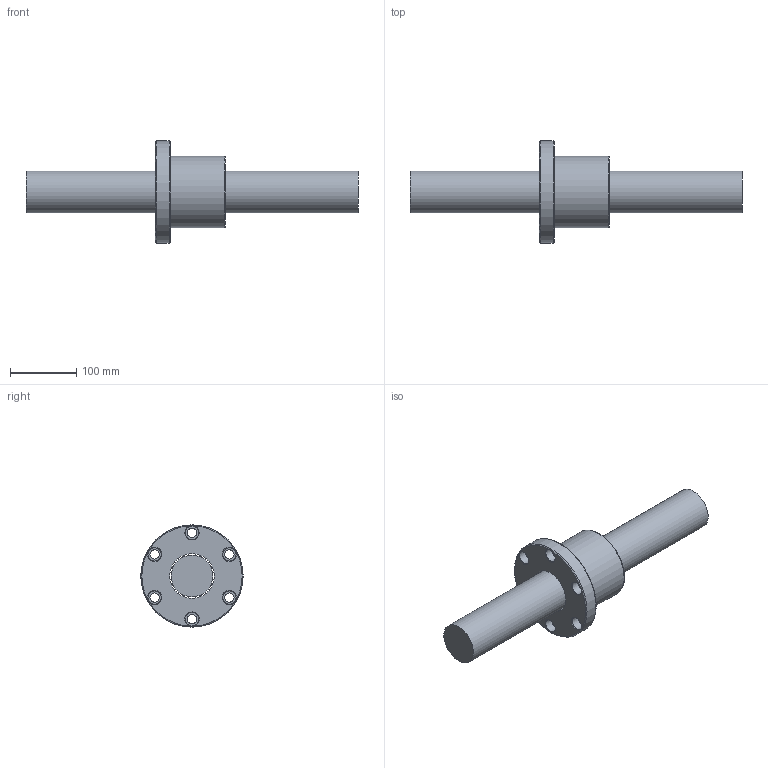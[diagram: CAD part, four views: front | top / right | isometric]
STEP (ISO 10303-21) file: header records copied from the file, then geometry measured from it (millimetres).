
FILE_DESCRIPTION (( 'STEP AP203' ), '1' );
FILE_NAME ('SFV06310N-4.8.step', '2024-05-20T03:40:20', ( '' ), ( '' ), 'SwSTEP 2.0', 'SolidWorks 2022', '' );
FILE_SCHEMA (( 'CONFIG_CONTROL_DESIGN' ));
Length unit declared in the file: millimetre
Products named in the file (1): SFV06310N-4.8
Bounding box: 500 x 154 x 154 mm (x, y, z)
Volume: 2323615.4 mm3; surface area: 201313.2 mm2
Topology: 2 solids, 2 shells, 57 faces, 146 edges, 94 vertices
Faces by surface type: cylinder 24, cone 13, plane 12, bspline 5, torus 3
Full cylindrical faces by diameter (mm): 4 x1, 7 x5, 14 x6, 20 x6, 63 x1, 67.1 x1, 108 x1, 154 x1
Entity records: 3426 total; most frequent: CARTESIAN_POINT 2374, DIRECTION 204, ORIENTED_EDGE 150, EDGE_LOOP 102, AXIS2_PLACEMENT_3D 101, EDGE_CURVE 75, FACE_OUTER_BOUND 72, VERTEX_POINT 65
